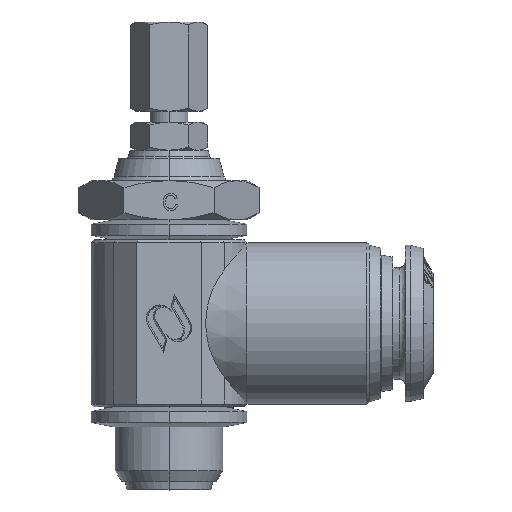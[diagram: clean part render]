
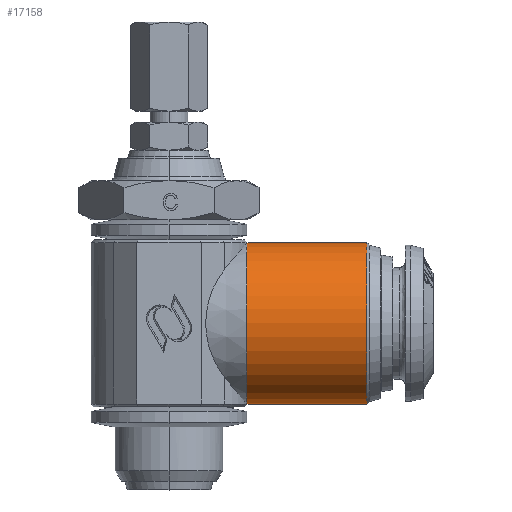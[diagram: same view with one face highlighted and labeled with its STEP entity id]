
A CAD part, top view. The second image highlights one B-rep face of the part: STEP entity #17158.
In plain terms, the highlighted cylindrical face has radius 7.25 mm (diameter 14.5 mm), a partial arc.
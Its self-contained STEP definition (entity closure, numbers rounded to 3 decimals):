
#189 = DIRECTION ( 'NONE',  ( 0., 1., 0. ) ) ;
#263 = VERTEX_POINT ( 'NONE', #13181 ) ;
#595 = DIRECTION ( 'NONE',  ( 1., 0., 0. ) ) ;
#616 = EDGE_CURVE ( 'NONE', #263, #1719, #3547, .T. ) ;
#784 = DIRECTION ( 'NONE',  ( 1., 0., 0. ) ) ;
#1250 = DIRECTION ( 'NONE',  ( 0., 1., 0. ) ) ;
#1719 = VERTEX_POINT ( 'NONE', #13370 ) ;
#2219 = CARTESIAN_POINT ( 'NONE',  ( 24.5, 22.2, 0. ) ) ;
#2772 = AXIS2_PLACEMENT_3D ( 'NONE', #16206, #6481, #189 ) ;
#2804 = CARTESIAN_POINT ( 'NONE',  ( 17.768, 14.95, 0. ) ) ;
#3316 = VECTOR ( 'NONE', #784, 1000. ) ;
#3547 = LINE ( 'NONE', #8853, #3316 ) ;
#4090 = CIRCLE ( 'NONE', #9501, 7.25 ) ;
#5421 = ORIENTED_EDGE ( 'NONE', *, *, #616, .T. ) ;
#5833 = VECTOR ( 'NONE', #595, 1000. ) ;
#5908 = CYLINDRICAL_SURFACE ( 'NONE', #2772, 7.25 ) ;
#6261 = VERTEX_POINT ( 'NONE', #12627 ) ;
#6481 = DIRECTION ( 'NONE',  ( 1., 0., 0. ) ) ;
#6978 = CARTESIAN_POINT ( 'NONE',  ( 7., 22.2, 0. ) ) ;
#8853 = CARTESIAN_POINT ( 'NONE',  ( 24.5, 7.7, 0. ) ) ;
#9501 = AXIS2_PLACEMENT_3D ( 'NONE', #2804, #14198, #1250 ) ;
#10217 = CIRCLE ( 'NONE', #16149, 7.25 ) ;
#10727 = ORIENTED_EDGE ( 'NONE', *, *, #11882, .T. ) ;
#11709 = LINE ( 'NONE', #2219, #5833 ) ;
#11882 = EDGE_CURVE ( 'NONE', #16822, #263, #10217, .T. ) ;
#11906 = DIRECTION ( 'NONE',  ( 0., 1., 0. ) ) ;
#12237 = ORIENTED_EDGE ( 'NONE', *, *, #13788, .F. ) ;
#12627 = CARTESIAN_POINT ( 'NONE',  ( 17.768, 22.2, 0. ) ) ;
#13181 = CARTESIAN_POINT ( 'NONE',  ( 7., 7.7, 0. ) ) ;
#13370 = CARTESIAN_POINT ( 'NONE',  ( 17.768, 7.7, 0. ) ) ;
#13386 = EDGE_CURVE ( 'NONE', #1719, #6261, #4090, .T. ) ;
#13788 = EDGE_CURVE ( 'NONE', #16822, #6261, #11709, .T. ) ;
#14198 = DIRECTION ( 'NONE',  ( -1., 0., 0. ) ) ;
#15010 = ORIENTED_EDGE ( 'NONE', *, *, #13386, .T. ) ;
#16149 = AXIS2_PLACEMENT_3D ( 'NONE', #19990, #16567, #11906 ) ;
#16206 = CARTESIAN_POINT ( 'NONE',  ( 24.5, 14.95, 0. ) ) ;
#16567 = DIRECTION ( 'NONE',  ( 1., 0., 0. ) ) ;
#16822 = VERTEX_POINT ( 'NONE', #6978 ) ;
#17158 = ADVANCED_FACE ( 'NONE', ( #20921 ), #5908, .T. ) ;
#17947 = EDGE_LOOP ( 'NONE', ( #10727, #5421, #15010, #12237 ) ) ;
#19990 = CARTESIAN_POINT ( 'NONE',  ( 7., 14.95, 0. ) ) ;
#20921 = FACE_OUTER_BOUND ( 'NONE', #17947, .T. ) ;
